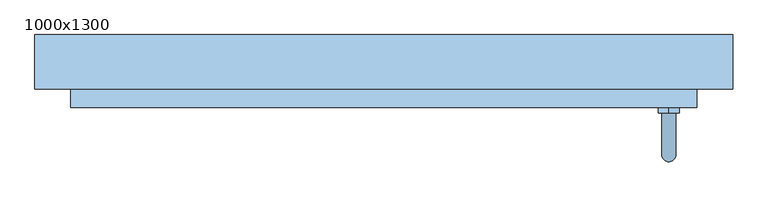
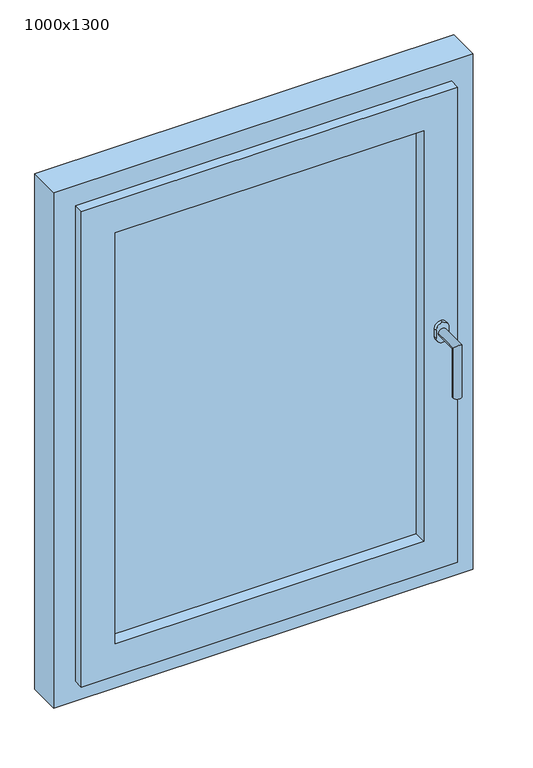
"""IFC4 building model written with IfcOpenShell, lengths in millimetres: window geometry, Jednokridlove rovne : 1000x1300."""

from ifc_helpers import new_model, si_unit, point, frame, frame_2d, origin, place, context, project, spatial, polyline, circle_curve, ellipse_curve, trimmed, segment, composite_curve, outline, extrude, faceted_brep, source, transform, mapped, element, save
from ifc_brep_helpers import plane_surface, cylinder_surface, advanced_brep


def window_1000x1300_4b8b3f88(model_context):
    return source(origin(), model_context, "Body", "SolidModel", [
        advanced_brep(
        [(418.5, 118.0, 1550.0), (398.5, 118.0, 1550.0), (418.5, 58.0, 1550.0), (398.5, 58.0, 1550.0), (418.5, 58.0, 1425.0), (398.5, 58.0, 1425.0)],
        [
            (0, 1, circle_curve(frame((408.5, 118.0, 1550.0), z_axis=(0.0, 1.0, 0.0), x_axis=(-1.0, 0.0, 0.0)), 10.0)),
            (1, 0, circle_curve(frame((408.5, 118.0, 1550.0), z_axis=(0.0, 1.0, 0.0), x_axis=(-1.0, 0.0, 0.0)), 10.0)),
            (0, 2),
            (2, 3, ellipse_curve(frame((408.5, 58.0, 1550.0), z_axis=(0.0, 0.7071067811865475, 0.7071067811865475), x_axis=(0.0, 0.7071067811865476, -0.7071067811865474)), 14.1421356, 10.0)),
            (3, 1),
            (3, 2, ellipse_curve(frame((408.5, 58.0, 1550.0), z_axis=(0.0, 0.7071067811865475, 0.7071067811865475), x_axis=(0.0, 0.7071067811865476, -0.7071067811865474)), 14.1421356, 10.0)),
            (4, 5, circle_curve(frame((408.5, 58.0, 1425.0), z_axis=(0.0, 0.0, -1.0), x_axis=(-1.0, 0.0, 0.0)), 10.0)),
            (5, 4, circle_curve(frame((408.5, 58.0, 1425.0), z_axis=(0.0, 0.0, -1.0), x_axis=(-1.0, 0.0, 0.0)), 10.0)),
            (2, 4),
            (5, 3),
        ],
        [
            plane_surface(frame((408.5, 118.0, 1550.0), z_axis=(0.0, 1.0, 0.0), x_axis=(1.0, 0.0, 0.0))),
            cylinder_surface(frame((408.5, 118.0, 1550.0), z_axis=(0.0, 1.0, 0.0), x_axis=(-1.0, 0.0, 0.0)), 10.0),
            plane_surface(frame((408.5, 58.0, 1425.0), z_axis=(0.0, 0.0, -1.0), x_axis=(1.0, 0.0, 0.0))),
            cylinder_surface(frame((408.5, 58.0, 1550.0), z_axis=(0.0, 0.0, 1.0), x_axis=(-1.0, 0.0, 0.0)), 10.0),
        ],
        [
            (0, [[1, 2]]),
            (1, [[-1, 3, 4, 5]]),
            (1, [[-2, -5, 6, -3]]),
            (2, [[7, 8]]),
            (3, [[-4, 9, -8, 10]]),
            (3, [[-6, -10, -7, -9]]),
        ],
    ),
        extrude(outline(composite_curve([segment(trimmed(circle_curve(frame_2d((1560.0, 408.5)), 15.0), [point((1560.0, 423.5))], [point((1575.0, 408.5))], False, "CARTESIAN"), True, "CONTINUOUS"), segment(trimmed(circle_curve(frame_2d((1560.0, 408.5)), 15.0), [point((1575.0, 408.5))], [point((1560.0, 393.5))], False, "CARTESIAN"), True, "CONTINUOUS"), segment(polyline([(1560.0, 393.5), (1540.0, 393.5)]), True, "CONTINUOUS"), segment(trimmed(circle_curve(frame_2d((1540.0, 408.5)), 15.0), [point((1540.0, 393.5))], [point((1525.0, 408.5))], False, "CARTESIAN"), True, "CONTINUOUS"), segment(trimmed(circle_curve(frame_2d((1540.0, 408.5)), 15.0), [point((1525.0, 408.5))], [point((1540.0, 423.5))], False, "CARTESIAN"), True, "CONTINUOUS"), segment(polyline([(1540.0, 423.5), (1560.0, 423.5)]), True, "CONTINUOUS")], self_intersect=False)), frame((0.0, 118.0, 0.0), z_axis=(0.0, 1.0, 0.0), x_axis=(0.0, 0.0, 1.0)), (0.0, 0.0, 1.0), 8.0),
        extrude(outline(polyline([(900.0, -500.0), (900.0, 500.0), (2200.0, 500.0), (2200.0, -500.0), (900.0, -500.0)]), holes=[polyline([(2119.0, -419.0), (2119.0, 419.0), (981.0, 419.0), (981.0, -419.0), (2119.0, -419.0)])]), frame((0.0, 152.0, 0.0), z_axis=(0.0, 1.0, 0.0), x_axis=(0.0, 0.0, 1.0)), (0.0, 0.0, 1.0), 78.0),
        extrude(outline(polyline([(368.0, 157.5), (-368.0, 157.5), (-368.0, 172.5), (368.0, 172.5), (368.0, 157.5)])), frame((0.0, 0.0, 1032.0), z_axis=(0.0, 0.0, 1.0), x_axis=(1.0, 0.0, 0.0)), (0.0, 0.0, 1.0), 1036.0),
        faceted_brep([(-419.0, 204.0, 981.0), (-419.0, 152.0, 981.0), (-419.0, 152.0, 2119.0), (-419.0, 204.0, 2119.0), (-368.0, 126.0, 1032.0), (-368.0, 204.0, 1032.0), (-368.0, 204.0, 2068.0), (-368.0, 126.0, 2068.0), (-449.0, 152.0, 951.0), (-449.0, 126.0, 951.0), (-449.0, 126.0, 2149.0), (-449.0, 152.0, 2149.0), (419.0, 152.0, 2119.0), (419.0, 204.0, 2119.0), (368.0, 204.0, 2068.0), (368.0, 126.0, 2068.0), (449.0, 126.0, 2149.0), (449.0, 152.0, 2149.0), (419.0, 152.0, 981.0), (419.0, 204.0, 981.0), (368.0, 204.0, 1032.0), (368.0, 126.0, 1032.0), (449.0, 126.0, 951.0), (449.0, 152.0, 951.0)], [[[0, 1, 2, 3]], [[4, 5, 6, 7]], [[8, 9, 10, 11]], [[3, 2, 12, 13]], [[7, 6, 14, 15]], [[11, 10, 16, 17]], [[13, 12, 18, 19]], [[15, 14, 20, 21]], [[17, 16, 22, 23]], [[19, 18, 1, 0]], [[3, 13, 19, 0], [5, 20, 14, 6]], [[21, 20, 5, 4]], [[9, 22, 16, 10], [7, 15, 21, 4]], [[23, 22, 9, 8]], [[11, 17, 23, 8], [1, 18, 12, 2]]]),
    ])


if __name__ == "__main__":
    model = new_model("IFC4")
    model_context = context("Model", 3, world=origin())
    ifc_project = project(units=[si_unit("LENGTHUNIT", "METRE", prefix="MILLI")], contexts=[model_context])
    site = spatial("IfcSite", under=ifc_project)
    building = spatial("IfcBuilding", under=site)
    placement = place(None, origin())
    window_1000x1300_shape = window_1000x1300_4b8b3f88(model_context)
    element("IfcWindow", 1, ObjectType="Jednokridlove rovne : 1000x1300", at=placement, inside=building, context=model_context, shape_type="MappedRepresentation", body=[
        mapped(window_1000x1300_shape, transform((0.0, 0.0, 0.0), x_axis=(1.0, 0.0, 0.0), y_axis=(0.0, 1.0, 0.0), z_axis=(0.0, 0.0, 1.0))),
    ])
    save(model, "model.ifc")
